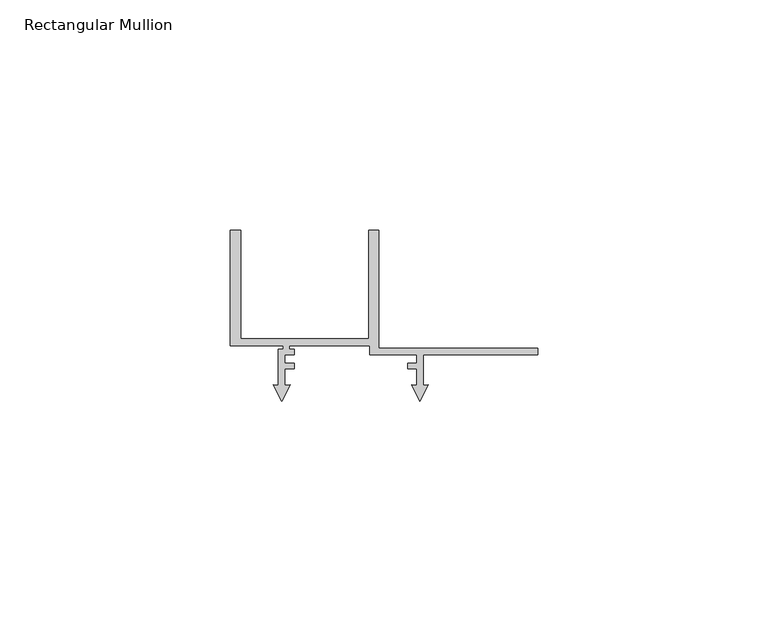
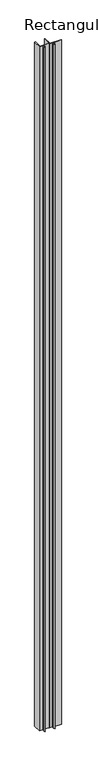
"""IFC4 building model written with IfcOpenShell, lengths in millimetres: member geometry, Rectangular Mullion : Renson_Linarte_LA-E25-01 Zone B."""

from ifc_helpers import new_model, si_unit, frame, origin, place, context, project, spatial, polyline, outline, extrude, source, transform, mapped, element, save


def rectangular_mullion_2d27342c(model_context):
    return source(origin(), model_context, "Body", "SweptSolid", [
        extrude(outline(polyline([(66.6, 21.6000494), (66.6, 20.1000494), (41.8, 20.1000494), (41.8, 13.5071867), (42.9255299, 13.6056578), (41.0999986, 10.0228474), (39.2744672, 13.6056581), (40.3999998, 13.5071867), (40.3999998, 17.099221), (38.4077357, 17.099221), (38.4077357, 18.3000494), (40.3999995, 18.3000494), (40.3999995, 20.1000494), (30.1732051, 20.1000494), (30.1732051, 22.1000494), (12.8, 22.1000494), (12.8, 21.3015754), (13.7880766, 21.3015754), (13.7880766, 20.1000494), (11.8091794, 20.1000494), (11.8091794, 18.3000494), (13.7875618, 18.3000494), (13.7875618, 17.0979618), (11.7999987, 17.0979618), (11.7999987, 13.5038712), (12.9157351, 13.6014855), (11.0999986, 10.037898), (9.284262, 13.6014855), (10.3999985, 13.5038712), (10.3999985, 21.3015754), (11.4, 21.3015754), (11.4, 22.1000494), (0.0, 22.1000494), (0.0, 47.1000494), (2.2, 47.1000494), (2.2, 23.6000494), (30.0, 23.6000494), (30.0, 47.1000494), (32.2, 47.1000494), (32.2, 21.6000494), (66.6, 21.6000494)])), frame((0.0, 0.0, -2225.0), z_axis=(0.0, 0.0, 1.0), x_axis=(1.0, 0.0, 0.0)), (0.0, 0.0, 1.0), 2225.0),
    ])


if __name__ == "__main__":
    model = new_model("IFC4")
    model_context = context("Model", 3, world=origin())
    ifc_project = project(units=[si_unit("LENGTHUNIT", "METRE", prefix="MILLI")], contexts=[model_context])
    site = spatial("IfcSite", under=ifc_project)
    building = spatial("IfcBuilding", under=site)
    placement = place(None, origin())
    rectangular_mullion_shape = rectangular_mullion_2d27342c(model_context)
    element("IfcMember", 1, ObjectType="Rectangular Mullion : Renson_Linarte_LA-E25-01 Zone B", at=placement, inside=building, context=model_context, shape_type="MappedRepresentation", body=[
        mapped(rectangular_mullion_shape, transform((0.0, 0.0, 0.0), x_axis=(1.0, 0.0, 0.0), y_axis=(0.0, 1.0, 0.0), z_axis=(0.0, 0.0, 1.0))),
    ])
    save(model, "model.ifc")
